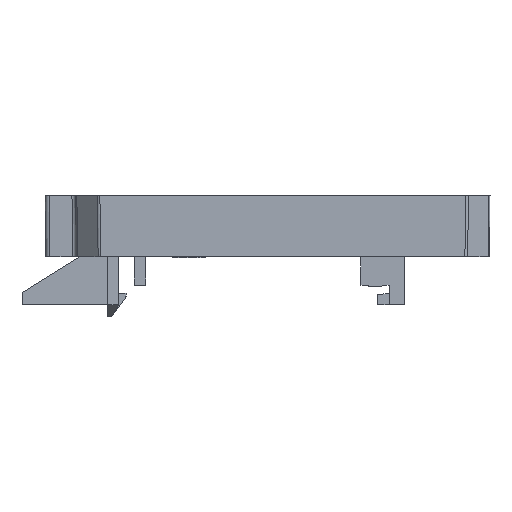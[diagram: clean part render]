
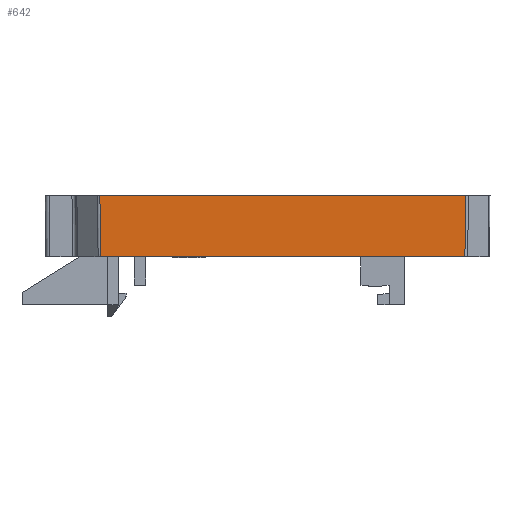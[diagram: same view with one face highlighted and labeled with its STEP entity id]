
A CAD part, front view. The second image highlights one B-rep face of the part: STEP entity #642.
In plain terms, the highlighted planar face has unit normal (0, -1, -0.009).
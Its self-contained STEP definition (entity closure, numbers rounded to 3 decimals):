
#642 = ADVANCED_FACE( '', ( #1406 ), #1407, .F. );
#1406 = FACE_OUTER_BOUND( '', #2456, .T. );
#1407 = PLANE( '', #2457 );
#2456 = EDGE_LOOP( '', ( #4941, #4942, #4943, #4944 ) );
#2457 = AXIS2_PLACEMENT_3D( '', #4945, #4946, #4947 );
#4941 = ORIENTED_EDGE( '', *, *, #7584, .T. );
#4942 = ORIENTED_EDGE( '', *, *, #7585, .T. );
#4943 = ORIENTED_EDGE( '', *, *, #7352, .F. );
#4944 = ORIENTED_EDGE( '', *, *, #7586, .F. );
#4945 = CARTESIAN_POINT( '', ( 26.868, -17.973, -20.884 ) );
#4946 = DIRECTION( '', ( 0., 1., 0.009 ) );
#4947 = DIRECTION( '', ( 0.999, 0., -0.035 ) );
#7352 = EDGE_CURVE( '', #8873, #8874, #8875, .T. );
#7584 = EDGE_CURVE( '', #9209, #9210, #9211, .T. );
#7585 = EDGE_CURVE( '', #9210, #8874, #9212, .T. );
#7586 = EDGE_CURVE( '', #9209, #8873, #9213, .T. );
#8873 = VERTEX_POINT( '', #11192 );
#8874 = VERTEX_POINT( '', #11193 );
#8875 = LINE( '', #11194, #11195 );
#9209 = VERTEX_POINT( '', #11788 );
#9210 = VERTEX_POINT( '', #11789 );
#9211 = LINE( '', #11790, #11791 );
#9212 = LINE( '', #11792, #11793 );
#9213 = LINE( '', #11794, #11795 );
#11192 = CARTESIAN_POINT( '', ( -23.994, -17.88, -29.75 ) );
#11193 = CARTESIAN_POINT( '', ( -24.122, -17.95, -21.75 ) );
#11194 = CARTESIAN_POINT( '', ( -23.99, -17.878, -30.017 ) );
#11195 = VECTOR( '', #12887, 1000. );
#11788 = CARTESIAN_POINT( '', ( 23.593, -17.895, -29.75 ) );
#11789 = CARTESIAN_POINT( '', ( 23.72, -17.965, -21.75 ) );
#11790 = CARTESIAN_POINT( '', ( 23.589, -17.893, -30.017 ) );
#11791 = VECTOR( '', #13072, 1000. );
#11792 = CARTESIAN_POINT( '', ( 26.868, -17.966, -21.75 ) );
#11793 = VECTOR( '', #13073, 1000. );
#11794 = CARTESIAN_POINT( '', ( 26.868, -17.896, -29.75 ) );
#11795 = VECTOR( '', #13074, 1000. );
#12887 = DIRECTION( '', ( -0.016, -0.009, 1. ) );
#13072 = DIRECTION( '', ( 0.016, -0.009, 1. ) );
#13073 = DIRECTION( '', ( -1., 0., 0. ) );
#13074 = DIRECTION( '', ( -1., 0., 0. ) );
